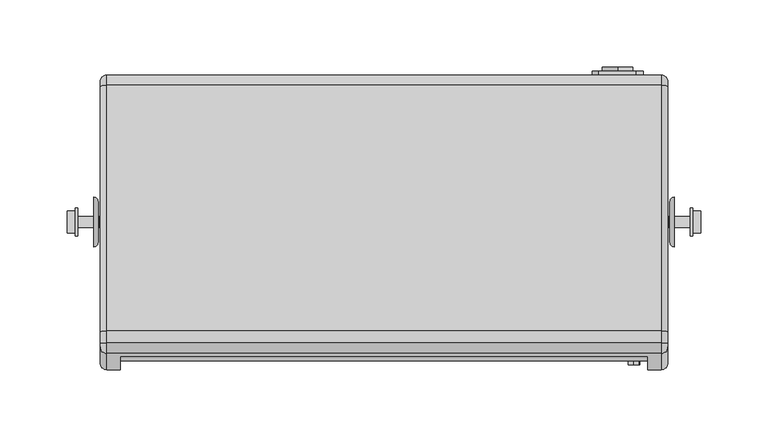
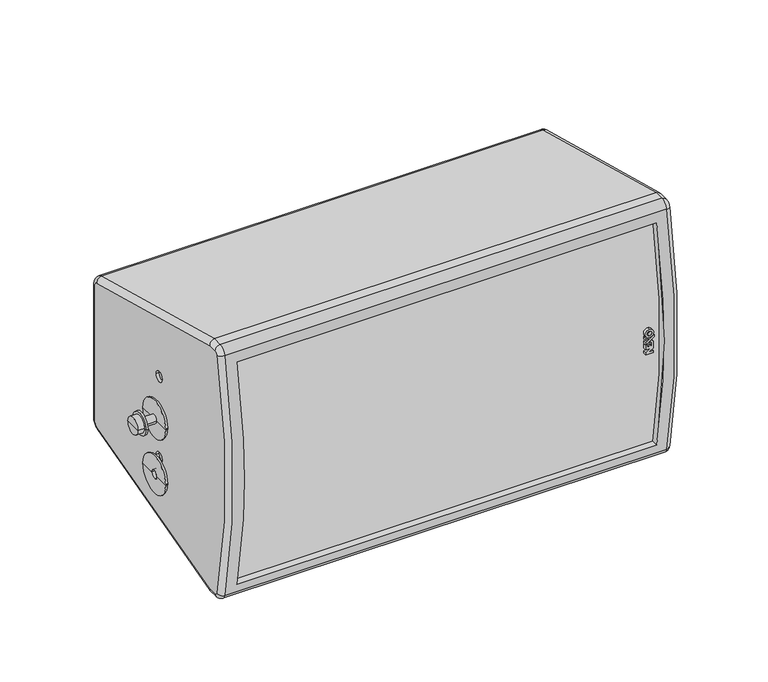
"""IFC4 building model written with IfcOpenShell, lengths in millimetres: proxy geometry, ePS8-HBRK425-SHM : ePS8-HBRK425-SHM."""

from ifc_helpers import new_model, si_unit, point, frame, frame_2d, origin, place, context, project, spatial, polyline, circle_curve, ellipse_curve, trimmed, segment, composite_curve, outline, extrude, source, transform, mapped, element, save
from ifc_brep_helpers import plane_surface, cylinder_surface, revolved_surface, advanced_brep


def generic_models_77f78af2(model_context):
    return source(origin(), model_context, "Body", "SolidModel", [
        extrude(outline(polyline([(180.0649064, 182.0590531), (180.0649064, 189.3388202), (181.9572736, 189.3388202), (181.9572736, 185.1734899), (184.7323706, 189.3388202), (191.5832803, 189.3388202), (192.9018526, 187.463849), (191.8384755, 185.8643156), (190.4689329, 187.7361557), (187.4353036, 187.7361557), (187.4353036, 186.4818684), (189.7184164, 186.4818684), (189.7184164, 184.8791381), (187.4353036, 184.8791381), (187.4353036, 183.6626349), (189.8423782, 183.6626349), (189.8423782, 182.8626349), (189.3087195, 182.0599046), (185.0403435, 182.0599046), (185.0306519, 186.5099607), (182.0913857, 182.0590531), (180.0649064, 182.0590531)])), frame((0.0, -106.5, 0.0), z_axis=(0.0, 1.0, 0.0), x_axis=(0.0, 0.0, 1.0)), (0.0, 0.0, 1.0), 3.0),
        extrude(outline(polyline([(189.9500346, 182.0590531), (195.4286538, 190.3), (197.6218565, 190.3), (192.1432373, 182.0590531), (189.9500346, 182.0590531)])), frame((0.0, -106.5, 0.0), z_axis=(0.0, 1.0, 0.0), x_axis=(0.0, 0.0, 1.0)), (0.0, 0.0, 1.0), 3.0),
        extrude(outline(polyline([(196.6906687, 182.0590531), (194.3638781, 182.0590531), (193.6160838, 183.3270101), (194.7003096, 184.957904), (196.6906687, 182.0590531)])), frame((0.0, -106.5, 0.0), z_axis=(0.0, 1.0, 0.0), x_axis=(0.0, 0.0, 1.0)), (0.0, 0.0, 1.0), 3.0),
        extrude(outline(composite_curve([segment(trimmed(circle_curve(frame_2d((200.0762799, 185.7298911)), 3.9406238), [point((196.135656, 185.7298911))], [point((204.0169037, 185.7298911))], False, "CARTESIAN"), True, "CONTINUOUS"), segment(trimmed(circle_curve(frame_2d((200.0762799, 185.7298911)), 3.9406238), [point((204.0169037, 185.7298911))], [point((196.135656, 185.7298911))], False, "CARTESIAN"), True, "CONTINUOUS")], self_intersect=False), holes=[composite_curve([segment(trimmed(circle_curve(frame_2d((200.0762799, 185.7298911)), 2.0681078), [point((198.0081721, 185.7298911))], [point((202.1443876, 185.7298911))], True, "CARTESIAN"), True, "CONTINUOUS"), segment(trimmed(circle_curve(frame_2d((200.0762799, 185.7298911)), 2.0681078), [point((202.1443876, 185.7298911))], [point((198.0081721, 185.7298911))], True, "CARTESIAN"), True, "CONTINUOUS")], self_intersect=False)]), frame((0.0, -106.5, 0.0), z_axis=(0.0, 1.0, 0.0), x_axis=(0.0, 0.0, 1.0)), (0.0, 0.0, 1.0), 3.0),
        extrude(outline(composite_curve([segment(trimmed(circle_curve(frame_2d((222.0012591, 174.0)), 11.4515227), [point((233.4527818, 174.0))], [point((210.5497365, 174.0))], False, "CARTESIAN"), True, "CONTINUOUS"), segment(trimmed(circle_curve(frame_2d((222.0012591, 174.0)), 11.4515227), [point((210.5497365, 174.0))], [point((233.4527818, 174.0))], False, "CARTESIAN"), True, "CONTINUOUS")], self_intersect=False), holes=[composite_curve([segment(trimmed(circle_curve(frame_2d((222.0012591, 174.0)), 5.0), [point((227.0012591, 174.0))], [point((217.0012591, 174.0))], True, "CARTESIAN"), True, "CONTINUOUS"), segment(trimmed(circle_curve(frame_2d((222.0012591, 174.0)), 5.0), [point((217.0012591, 174.0))], [point((227.0012591, 174.0))], True, "CARTESIAN"), True, "CONTINUOUS")], self_intersect=False)]), frame((0.0, 112.5, 0.0), z_axis=(0.0, 1.0, 0.0), x_axis=(0.0, 0.0, 1.0)), (0.0, 0.0, 1.0), 3.0),
        extrude(outline(composite_curve([segment(trimmed(circle_curve(frame_2d((162.0012591, 174.0)), 11.4515227), [point((173.4527818, 174.0))], [point((150.5497365, 174.0))], False, "CARTESIAN"), True, "CONTINUOUS"), segment(trimmed(circle_curve(frame_2d((162.0012591, 174.0)), 11.4515227), [point((150.5497365, 174.0))], [point((173.4527818, 174.0))], False, "CARTESIAN"), True, "CONTINUOUS")], self_intersect=False), holes=[composite_curve([segment(trimmed(circle_curve(frame_2d((162.0012591, 174.0)), 5.0), [point((167.0012591, 174.0))], [point((157.0012591, 174.0))], True, "CARTESIAN"), True, "CONTINUOUS"), segment(trimmed(circle_curve(frame_2d((162.0012591, 174.0)), 5.0), [point((157.0012591, 174.0))], [point((167.0012591, 174.0))], True, "CARTESIAN"), True, "CONTINUOUS")], self_intersect=False)]), frame((0.0, 112.5, 0.0), z_axis=(0.0, 1.0, 0.0), x_axis=(0.0, 0.0, 1.0)), (0.0, 0.0, 1.0), 3.0),
        extrude(outline(composite_curve([segment(polyline([(245.0012591, 155.0), (139.0012591, 155.0)]), True, "CONTINUOUS"), segment(trimmed(circle_curve(frame_2d((139.0012591, 160.0)), 5.0), [point((139.0012591, 155.0))], [point((134.0012591, 160.0))], False, "CARTESIAN"), True, "CONTINUOUS"), segment(polyline([(134.0012591, 160.0), (134.0012591, 188.0)]), True, "CONTINUOUS"), segment(trimmed(circle_curve(frame_2d((139.0012591, 188.0)), 5.0), [point((134.0012591, 188.0))], [point((139.0012591, 193.0))], False, "CARTESIAN"), True, "CONTINUOUS"), segment(polyline([(139.0012591, 193.0), (245.0012591, 193.0)]), True, "CONTINUOUS"), segment(trimmed(circle_curve(frame_2d((245.0012591, 188.0)), 5.0), [point((245.0012591, 193.0))], [point((250.0012591, 188.0))], False, "CARTESIAN"), True, "CONTINUOUS"), segment(polyline([(250.0012591, 188.0), (250.0012591, 160.0)]), True, "CONTINUOUS"), segment(trimmed(circle_curve(frame_2d((245.0012591, 160.0)), 5.0), [point((250.0012591, 160.0))], [point((245.0012591, 155.0))], False, "CARTESIAN"), True, "CONTINUOUS")], self_intersect=False)), frame((0.0, 109.5, 0.0), z_axis=(0.0, 1.0, 0.0), x_axis=(0.0, 0.0, 1.0)), (0.0, 0.0, 1.0), 3.0),
        advanced_brep(
        [(-211.5, 100.7940952, 120.9332586), (-211.5, -81.822613, 72.0012591), (-211.5, -90.3294755, 72.0012591), (-211.5, -93.2535773, 74.3307156), (-211.5, -93.2535773, 309.6718026), (-211.5, -90.3294755, 312.0012591), (-211.5, -81.822613, 312.0012591), (-211.5, 100.7940952, 263.0692597), (-211.5, 104.5, 258.2396305), (-211.5, 104.5, 125.7628878), (-211.5, -5.0, 192.0012591), (-211.5, 5.0, 192.0012591), (-211.5, -5.0, 152.0012591), (-211.5, 5.0, 152.0012591), (-211.5, -5.0, 232.0012591), (-211.5, 5.0, 232.0012591), (211.5, -81.822613, 72.0012591), (211.5, 100.7940952, 120.9332586), (211.5, 104.5, 125.7628878), (211.5, 104.5, 258.2396305), (211.5, 100.7940952, 263.0692597), (211.5, -81.822613, 312.0012591), (211.5, -90.3294755, 312.0012591), (211.5, -93.2535773, 309.6718026), (211.5, -93.2535773, 74.3307156), (211.5, -90.3294755, 72.0012591), (211.5, 5.0, 192.0012591), (211.5, -5.0, 192.0012591), (211.5, 5.0, 152.0012591), (211.5, -5.0, 152.0012591), (211.5, 5.0, 232.0012591), (211.5, -5.0, 232.0012591), (-206.5, 109.5, 125.7628878), (-206.5, 109.5, 258.2396305), (206.5, 109.5, 258.2396305), (206.5, 109.5, 125.7628878), (-20.0043019, 109.5, 144.6579769), (-20.0043019, 109.5, 133.3446565), (-20.0043019, 109.5, 214.6579769), (-20.0043019, 109.5, 203.3446565), (-90.0043019, 109.5, 214.6579769), (-90.0043019, 109.5, 203.3446565), (-206.5, -98.1270803, 310.7893751), (-206.5, -98.1270803, 73.2131432), (206.4999999, -98.1270803, 73.2131432), (206.5, -98.1270803, 310.7893751), (-196.5, -100.0641688, 82.0012591), (-196.5, -100.0641688, 302.0012591), (196.5, -100.0641688, 302.0012591), (196.5, -100.0641688, 82.0012591), (-206.5, -90.3294755, 317.0012591), (206.5, -90.3294755, 317.0012591), (-206.5, -81.1643505, 317.0012591), (206.5, -81.1643505, 317.0012591), (-206.5, 102.0881905, 267.8988888), (206.5, 102.0881905, 267.8988888), (-206.5, 102.0881905, 116.1036295), (206.5, 102.0881905, 116.1036295), (-206.5, -81.1643505, 67.0012591), (206.5, -81.1643505, 67.0012591), (-206.5, -90.3294755, 67.0012591), (206.5, -90.3294755, 67.0012591), (-208.5, 5.0, 192.0012591), (-208.5, -5.0, 192.0012591), (-208.5, 5.0, 152.0012591), (-208.5, -5.0, 152.0012591), (-208.5, 5.0, 232.0012591), (-208.5, -5.0, 232.0012591), (-196.5, -93.3234349, 82.0012591), (-196.5, -93.2137672, 302.0012591), (196.5, -93.2137672, 302.0012591), (196.5, -93.3234349, 82.0012591), (208.5, 5.0, 192.0012591), (208.5, -5.0, 192.0012591), (208.5, 5.0, 152.0012591), (208.5, -5.0, 152.0012591), (208.5, 5.0, 232.0012591), (208.5, -5.0, 232.0012591), (-20.0043019, 106.5, 144.6579769), (-20.0043019, 106.5, 133.3446565), (-20.0043019, 106.5, 214.6579769), (-20.0043019, 106.5, 203.3446565), (-90.0043019, 106.5, 214.6579769), (-90.0043019, 106.5, 203.3446565)],
        [
            (0, 1),
            (1, 2),
            (2, 3, circle_curve(frame((-211.5, -90.3294755, 75.0012591), z_axis=(-1.0, 0.0, 0.0), x_axis=(0.0, -0.9747006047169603, -0.22351449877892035)), 3.0)),
            (3, 4, circle_curve(frame((-211.5, 419.8833804, 192.0012591), z_axis=(-1.0, 0.0, 0.0), x_axis=(0.0, -0.9747006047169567, 0.22351449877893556)), 526.4559755)),
            (4, 5, circle_curve(frame((-211.5, -90.3294755, 309.0012591), z_axis=(-1.0, 0.0, 0.0), x_axis=(0.0, 0.0, 1.0)), 3.0)),
            (5, 6),
            (6, 7),
            (7, 8, circle_curve(frame((-211.5, 99.5, 258.2396305), z_axis=(-1.0, 0.0, 0.0), x_axis=(0.0, 1.0, 0.0)), 5.0)),
            (8, 9),
            (9, 0, circle_curve(frame((-211.5, 99.5, 125.7628878), z_axis=(-1.0, 0.0, 0.0), x_axis=(0.0, 0.25881904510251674, -0.9659258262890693)), 5.0)),
            (10, 11, circle_curve(frame((-211.5, 0.0, 192.0012591), z_axis=(1.0, 0.0, 0.0), x_axis=(0.0, -1.0, 0.0)), 5.0)),
            (11, 10, circle_curve(frame((-211.5, 0.0, 192.0012591), z_axis=(1.0, 0.0, 0.0), x_axis=(0.0, -1.0, 0.0)), 5.0)),
            (12, 13, circle_curve(frame((-211.5, 0.0, 152.0012591), z_axis=(1.0, 0.0, 0.0), x_axis=(0.0, -1.0, 0.0)), 5.0)),
            (13, 12, circle_curve(frame((-211.5, 0.0, 152.0012591), z_axis=(1.0, 0.0, 0.0), x_axis=(0.0, -1.0, 0.0)), 5.0)),
            (14, 15, circle_curve(frame((-211.5, 0.0, 232.0012591), z_axis=(1.0, 0.0, 0.0), x_axis=(0.0, -1.0, 0.0)), 5.0)),
            (15, 14, circle_curve(frame((-211.5, 0.0, 232.0012591), z_axis=(1.0, 0.0, 0.0), x_axis=(0.0, -1.0, 0.0)), 5.0)),
            (16, 17),
            (17, 18, circle_curve(frame((211.5, 99.5, 125.7628878), z_axis=(1.0, 0.0, 0.0), x_axis=(0.0, 0.2588190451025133, -0.9659258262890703)), 5.0)),
            (18, 19),
            (19, 20, circle_curve(frame((211.5, 99.5, 258.2396305), z_axis=(1.0, 0.0, 0.0), x_axis=(0.0, 1.0, 0.0)), 5.0)),
            (20, 21),
            (21, 22),
            (22, 23, circle_curve(frame((211.5, -90.3294755, 309.0012591), z_axis=(1.0, 0.0, 0.0), x_axis=(0.0, 0.0, 1.0)), 3.0)),
            (23, 24, circle_curve(frame((211.5, 419.8833804, 192.0012591), z_axis=(1.0, 0.0, 0.0), x_axis=(0.0, -0.9747006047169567, 0.22351449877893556)), 526.4559755)),
            (24, 25, circle_curve(frame((211.5, -90.3294755, 75.0012591), z_axis=(1.0, 0.0, 0.0), x_axis=(0.0, -0.9747006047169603, -0.22351449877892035)), 3.0)),
            (25, 16),
            (26, 27, circle_curve(frame((211.5, 0.0, 192.0012591), z_axis=(-1.0, 0.0, 0.0), x_axis=(0.0, -1.0, 0.0)), 5.0)),
            (27, 26, circle_curve(frame((211.5, 0.0, 192.0012591), z_axis=(-1.0, 0.0, 0.0), x_axis=(0.0, -1.0, 0.0)), 5.0)),
            (28, 29, circle_curve(frame((211.5, 0.0, 152.0012591), z_axis=(-1.0, 0.0, 0.0), x_axis=(0.0, -1.0, 0.0)), 5.0)),
            (29, 28, circle_curve(frame((211.5, 0.0, 152.0012591), z_axis=(-1.0, 0.0, 0.0), x_axis=(0.0, -1.0, 0.0)), 5.0)),
            (30, 31, circle_curve(frame((211.5, 0.0, 232.0012591), z_axis=(-1.0, 0.0, 0.0), x_axis=(0.0, -1.0, 0.0)), 5.0)),
            (31, 30, circle_curve(frame((211.5, 0.0, 232.0012591), z_axis=(-1.0, 0.0, 0.0), x_axis=(0.0, -1.0, 0.0)), 5.0)),
            (32, 33),
            (33, 34),
            (34, 35),
            (35, 32),
            (36, 37, circle_curve(frame((-20.0043019, 109.5, 139.0013167), z_axis=(0.0, -1.0, 0.0), x_axis=(0.0, 0.0, -1.0)), 5.6566602)),
            (37, 36, circle_curve(frame((-20.0043019, 109.5, 139.0013167), z_axis=(0.0, -1.0, 0.0), x_axis=(0.0, 0.0, -1.0)), 5.6566602)),
            (38, 39, circle_curve(frame((-20.0043019, 109.5, 209.0013167), z_axis=(0.0, -1.0, 0.0), x_axis=(0.0, 0.0, -1.0)), 5.6566602)),
            (39, 38, circle_curve(frame((-20.0043019, 109.5, 209.0013167), z_axis=(0.0, -1.0, 0.0), x_axis=(0.0, 0.0, -1.0)), 5.6566602)),
            (40, 41, circle_curve(frame((-90.0043019, 109.5, 209.0013167), z_axis=(0.0, -1.0, 0.0), x_axis=(0.0, 0.0, -1.0)), 5.6566602)),
            (41, 40, circle_curve(frame((-90.0043019, 109.5, 209.0013167), z_axis=(0.0, -1.0, 0.0), x_axis=(0.0, 0.0, -1.0)), 5.6566602)),
            (42, 43, circle_curve(frame((-206.5, 419.8833804, 192.0012591), z_axis=(1.0, 0.0, 0.0), x_axis=(0.0, 0.0, 1.0)), 531.4559755)),
            (43, 44),
            (44, 45, circle_curve(frame((206.5, 419.8833804, 192.0012591), z_axis=(-1.0, 0.0, 0.0), x_axis=(0.0, 0.0, 1.0)), 531.4559755)),
            (45, 42),
            (46, 47, circle_curve(frame((-196.5, 419.8833804, 192.0012591), z_axis=(-1.0, 0.0, 0.0), x_axis=(0.0, 0.0, 1.0)), 531.4559755)),
            (47, 48),
            (48, 49, circle_curve(frame((196.5, 419.8833804, 192.0012591), z_axis=(1.0, 0.0, 0.0), x_axis=(0.0, 0.0, 1.0)), 531.4559755)),
            (49, 46),
            (50, 42, circle_curve(frame((-206.5, -90.3294755, 309.0012591), z_axis=(1.0, 0.0, 0.0), x_axis=(0.0, 0.0, 1.0)), 8.0)),
            (45, 51, circle_curve(frame((206.5, -90.3294755, 309.0012591), z_axis=(-1.0, 0.0, 0.0), x_axis=(0.0, 0.0, 1.0)), 8.0)),
            (51, 50),
            (52, 50),
            (51, 53),
            (53, 52),
            (54, 52),
            (53, 55),
            (55, 54),
            (33, 54, circle_curve(frame((-206.5, 99.5, 258.2396305), z_axis=(1.0, 0.0, 0.0), x_axis=(0.0, 0.0, 1.0)), 10.0)),
            (55, 34, circle_curve(frame((206.5, 99.5, 258.2396305), z_axis=(-1.0, 0.0, 0.0), x_axis=(0.0, 0.0, 1.0)), 10.0)),
            (56, 32, circle_curve(frame((-206.5, 99.5, 125.7628878), z_axis=(1.0, 0.0, 0.0), x_axis=(0.0, 0.0, 1.0)), 10.0)),
            (35, 57, circle_curve(frame((206.5, 99.5, 125.7628878), z_axis=(-1.0, 0.0, 0.0), x_axis=(0.0, 0.0, 1.0)), 10.0)),
            (57, 56),
            (58, 56),
            (57, 59),
            (59, 58),
            (60, 58),
            (59, 61),
            (61, 60),
            (43, 60, circle_curve(frame((-206.5, -90.3294755, 75.0012591), z_axis=(1.0, 0.0, 0.0), x_axis=(0.0, 0.0, 1.0)), 8.0)),
            (61, 44, circle_curve(frame((206.5, -90.3294755, 75.0012591), z_axis=(-1.0, 0.0, 0.0), x_axis=(0.0, 0.0, 1.0)), 8.0)),
            (62, 63, circle_curve(frame((-208.5, 0.0, 192.0012591), z_axis=(-1.0, 0.0, 0.0), x_axis=(0.0, -1.0, 0.0)), 5.0)),
            (63, 62, circle_curve(frame((-208.5, 0.0, 192.0012591), z_axis=(-1.0, 0.0, 0.0), x_axis=(0.0, -1.0, 0.0)), 5.0)),
            (64, 65, circle_curve(frame((-208.5, 0.0, 152.0012591), z_axis=(-1.0, 0.0, 0.0), x_axis=(0.0, -1.0, 0.0)), 5.0)),
            (65, 64, circle_curve(frame((-208.5, 0.0, 152.0012591), z_axis=(-1.0, 0.0, 0.0), x_axis=(0.0, -1.0, 0.0)), 5.0)),
            (66, 67, circle_curve(frame((-208.5, 0.0, 232.0012591), z_axis=(-1.0, 0.0, 0.0), x_axis=(0.0, -1.0, 0.0)), 5.0)),
            (67, 66, circle_curve(frame((-208.5, 0.0, 232.0012591), z_axis=(-1.0, 0.0, 0.0), x_axis=(0.0, -1.0, 0.0)), 5.0)),
            (62, 11),
            (10, 63),
            (64, 13),
            (12, 65),
            (66, 15),
            (14, 67),
            (46, 68),
            (68, 69, circle_curve(frame((-196.5, 416.4531533, 191.7471682), z_axis=(-1.0, 0.0, 0.0), x_axis=(0.0, 0.0, 1.0)), 521.4559755)),
            (69, 47),
            (48, 70),
            (70, 71, circle_curve(frame((196.5, 416.4531533, 191.7471682), z_axis=(1.0, 0.0, 0.0), x_axis=(0.0, 0.0, 1.0)), 521.4559755)),
            (71, 49),
            (69, 70),
            (68, 71),
            (0, 56, circle_curve(frame((-206.5, 100.7940952, 120.9332586), z_axis=(0.0, -0.9659258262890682, -0.25881904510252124), x_axis=(0.0, 0.25881904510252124, -0.9659258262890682)), 5.0)),
            (58, 1, ellipse_curve(frame((-206.5, -81.822613, 72.0012591), z_axis=(0.0, 0.9914448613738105, 0.130526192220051), x_axis=(0.0, -0.13052619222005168, 0.9914448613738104)), 5.0431448, 5.0)),
            (9, 32, circle_curve(frame((-206.5, 104.5, 125.7628878), z_axis=(0.0, 0.0, -1.0), x_axis=(0.0, 1.0, 0.0)), 5.0)),
            (8, 33, circle_curve(frame((-206.5, 104.5, 258.2396305), z_axis=(0.0, 0.0, -1.0), x_axis=(0.0, 1.0, 0.0)), 5.0)),
            (7, 54, circle_curve(frame((-206.5, 100.7940952, 263.0692597), z_axis=(0.0, 0.9659258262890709, -0.2588190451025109), x_axis=(0.0, 0.2588190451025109, 0.9659258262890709)), 5.0)),
            (6, 52, ellipse_curve(frame((-206.5, -81.822613, 312.0012591), z_axis=(0.0, 0.9914448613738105, -0.1305261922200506), x_axis=(0.0, 0.1305261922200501, 0.9914448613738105)), 5.0431448, 5.0)),
            (60, 2, circle_curve(frame((-206.5, -90.3294755, 72.0012591), z_axis=(0.0, 1.0, 0.0), x_axis=(0.0, 0.0, -1.0)), 5.0)),
            (5, 50, circle_curve(frame((-206.5, -90.3294755, 312.0012591), z_axis=(0.0, 1.0, 0.0), x_axis=(0.0, 0.0, 1.0)), 5.0)),
            (4, 42, circle_curve(frame((-206.5, -93.2535773, 309.6718026), z_axis=(0.0, 0.22351449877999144, 0.9747006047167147), x_axis=(0.0, -0.9747006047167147, 0.22351449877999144)), 5.0)),
            (3, 43, circle_curve(frame((-206.5, -93.2535773, 74.3307156), z_axis=(0.0, -0.22351449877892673, 0.9747006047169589), x_axis=(0.0, -0.9747006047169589, -0.22351449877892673)), 5.0)),
            (57, 17, circle_curve(frame((206.5, 100.7940952, 120.9332586), z_axis=(0.0, -0.9659258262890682, -0.2588190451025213), x_axis=(0.0, 0.2588190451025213, -0.9659258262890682)), 5.0)),
            (16, 59, ellipse_curve(frame((206.5, -81.822613, 72.0012591), z_axis=(0.0, 0.9914448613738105, 0.13052619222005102), x_axis=(0.0, -0.13052619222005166, 0.9914448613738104)), 5.0431448, 5.0)),
            (35, 18, circle_curve(frame((206.5, 104.5, 125.7628878), z_axis=(0.0, 0.0, -1.0), x_axis=(0.0, 1.0, 0.0)), 5.0)),
            (34, 19, circle_curve(frame((206.5, 104.5, 258.2396305), z_axis=(0.0, 0.0, -1.0), x_axis=(0.0, 1.0, 0.0)), 5.0)),
            (55, 20, circle_curve(frame((206.5, 100.7940952, 263.0692597), z_axis=(0.0, 0.9659258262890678, -0.25881904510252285), x_axis=(0.0, 0.25881904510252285, 0.9659258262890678)), 5.0)),
            (53, 21, ellipse_curve(frame((206.5, -81.822613, 312.0012591), z_axis=(0.0, 0.9914448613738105, -0.13052619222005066), x_axis=(0.0, 0.1305261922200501, 0.9914448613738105)), 5.0431448, 5.0)),
            (25, 61, circle_curve(frame((206.5, -90.3294755, 72.0012591), z_axis=(0.0, 1.0, 0.0), x_axis=(0.0, 0.0, -1.0)), 5.0)),
            (51, 22, circle_curve(frame((206.5, -90.3294755, 312.0012591), z_axis=(0.0, 1.0, 0.0), x_axis=(0.0, 0.0, 1.0)), 5.0)),
            (45, 23, circle_curve(frame((206.5, -93.2535773, 309.6718026), z_axis=(0.0, 0.2235144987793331, 0.9747006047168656), x_axis=(0.0, -0.9747006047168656, 0.2235144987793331)), 5.0)),
            (44, 24, circle_curve(frame((206.5, -93.2535773, 74.3307156), z_axis=(0.0, -0.22351449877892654, 0.9747006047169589), x_axis=(0.0, -0.9747006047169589, -0.22351449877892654)), 5.0)),
            (72, 73, circle_curve(frame((208.5, 0.0, 192.0012591), z_axis=(1.0, 0.0, 0.0), x_axis=(0.0, -1.0, 0.0)), 5.0)),
            (73, 72, circle_curve(frame((208.5, 0.0, 192.0012591), z_axis=(1.0, 0.0, 0.0), x_axis=(0.0, -1.0, 0.0)), 5.0)),
            (74, 75, circle_curve(frame((208.5, 0.0, 152.0012591), z_axis=(1.0, 0.0, 0.0), x_axis=(0.0, -1.0, 0.0)), 5.0)),
            (75, 74, circle_curve(frame((208.5, 0.0, 152.0012591), z_axis=(1.0, 0.0, 0.0), x_axis=(0.0, -1.0, 0.0)), 5.0)),
            (76, 77, circle_curve(frame((208.5, 0.0, 232.0012591), z_axis=(1.0, 0.0, 0.0), x_axis=(0.0, -1.0, 0.0)), 5.0)),
            (77, 76, circle_curve(frame((208.5, 0.0, 232.0012591), z_axis=(1.0, 0.0, 0.0), x_axis=(0.0, -1.0, 0.0)), 5.0)),
            (73, 27),
            (26, 72),
            (75, 29),
            (28, 74),
            (77, 31),
            (30, 76),
            (78, 79, circle_curve(frame((-20.0043019, 106.5, 139.0013167), z_axis=(0.0, 1.0, 0.0), x_axis=(0.0, 0.0, -1.0)), 5.6566602)),
            (79, 78, circle_curve(frame((-20.0043019, 106.5, 139.0013167), z_axis=(0.0, 1.0, 0.0), x_axis=(0.0, 0.0, -1.0)), 5.6566602)),
            (80, 81, circle_curve(frame((-20.0043019, 106.5, 209.0013167), z_axis=(0.0, 1.0, 0.0), x_axis=(0.0, 0.0, -1.0)), 5.6566602)),
            (81, 80, circle_curve(frame((-20.0043019, 106.5, 209.0013167), z_axis=(0.0, 1.0, 0.0), x_axis=(0.0, 0.0, -1.0)), 5.6566602)),
            (82, 83, circle_curve(frame((-90.0043019, 106.5, 209.0013167), z_axis=(0.0, 1.0, 0.0), x_axis=(0.0, 0.0, -1.0)), 5.6566602)),
            (83, 82, circle_curve(frame((-90.0043019, 106.5, 209.0013167), z_axis=(0.0, 1.0, 0.0), x_axis=(0.0, 0.0, -1.0)), 5.6566602)),
            (79, 37),
            (36, 78),
            (81, 39),
            (38, 80),
            (83, 41),
            (40, 82),
        ],
        [
            plane_surface(frame((-211.5, -90.3294755, 317.0012591), z_axis=(-1.0, 0.0, 0.0), x_axis=(0.0, 1.0, 0.0))),
            plane_surface(frame((211.5, -90.3294755, 317.0012591), z_axis=(1.0, 0.0, 0.0), x_axis=(0.0, -1.0, 0.0))),
            plane_surface(frame((-211.5, 109.5, 258.2396305), z_axis=(0.0, 1.0, 0.0), x_axis=(1.0, 0.0, 0.0))),
            cylinder_surface(frame((211.5, 419.8833804, 192.0012591), z_axis=(-1.0, 0.0, 0.0), x_axis=(0.0, 0.0, 1.0)), 531.4559755),
            cylinder_surface(frame((211.5, -90.3294755, 309.0012591), z_axis=(-1.0, 0.0, 0.0), x_axis=(0.0, 0.0, 1.0)), 8.0),
            plane_surface(frame((-211.5, -90.3294755, 317.0012591), z_axis=(0.0, 0.0, 1.0), x_axis=(1.0, 0.0, 0.0))),
            plane_surface(frame((-211.5, -81.1643505, 317.0012591), z_axis=(0.0, 0.2588190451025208, 0.9659258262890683), x_axis=(1.0, 0.0, 0.0))),
            cylinder_surface(frame((211.5, 99.5, 258.2396305), z_axis=(-1.0, 0.0, 0.0), x_axis=(0.0, 0.0, 1.0)), 10.0),
            cylinder_surface(frame((211.5, 99.5, 125.7628878), z_axis=(-1.0, 0.0, 0.0), x_axis=(0.0, 0.0, 1.0)), 10.0),
            plane_surface(frame((-211.5, 102.0881905, 116.1036295), z_axis=(0.0, 0.2588190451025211, -0.9659258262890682), x_axis=(1.0, 0.0, 0.0))),
            plane_surface(frame((-211.5, -81.1643505, 67.0012591), z_axis=(0.0, 0.0, -1.0), x_axis=(1.0, 0.0, 0.0))),
            cylinder_surface(frame((211.5, -90.3294755, 75.0012591), z_axis=(-1.0, 0.0, 0.0), x_axis=(0.0, 0.0, 1.0)), 8.0),
            plane_surface(frame((-208.5, -5.0, 192.0012591), z_axis=(-1.0, 0.0, 0.0), x_axis=(0.0, 0.0, -1.0))),
            revolved_surface(polyline([(-211.5, -5.0, 192.0012591), (-208.5, -5.0, 192.0012591)]), (-208.5, 0.0, 192.0012591), (-1.0, 0.0, 0.0)),
            revolved_surface(polyline([(-211.5, -5.0, 152.0012591), (-208.5, -5.0, 152.0012591)]), (-211.5, 0.0, 152.0012591), (-1.0, 0.0, 0.0)),
            revolved_surface(polyline([(-211.5, -5.0, 232.0012591), (-208.5, -5.0, 232.0012591)]), (-211.5, 0.0, 232.0012591), (-1.0, 0.0, 0.0)),
            plane_surface(frame((-196.5, -157.7599178, 302.0012591), z_axis=(1.0, 0.0, 0.0), x_axis=(0.0, 1.0, 0.0))),
            plane_surface(frame((196.5, -157.7599178, 302.0012591), z_axis=(-1.0, 0.0, 0.0), x_axis=(0.0, -1.0, 0.0))),
            plane_surface(frame((-196.5, -100.0641688, 302.0012591), z_axis=(0.0, 0.0, -1.0), x_axis=(1.0, 0.0, 0.0))),
            cylinder_surface(frame((196.5, 416.4531533, 191.7471682), z_axis=(1.0, 0.0, 0.0), x_axis=(0.0, 0.0, 1.0)), 521.4559755),
            plane_surface(frame((-196.5, -93.3234349, 82.0012591), z_axis=(0.0, 0.0, 1.0), x_axis=(1.0, 0.0, 0.0))),
            cylinder_surface(frame((-206.5, -82.4584457, 71.8308883), z_axis=(0.0, 0.9659258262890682, 0.25881904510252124), x_axis=(0.0, 0.25881904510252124, -0.9659258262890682)), 5.0),
            revolved_surface(trimmed(ellipse_curve(frame((-206.5, 100.7940952, 120.9332586), z_axis=(0.0, -0.9659258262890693, -0.25881904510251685), x_axis=(0.0, 0.25881904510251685, -0.9659258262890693)), 5.0, 5.0), [point((-211.5, 100.7940952, 120.9332586))], [point((-206.5, 102.0881905, 116.1036295))], True, "CARTESIAN"), (-211.5, 99.5, 125.7628878), (1.0, 0.0, 0.0)),
            cylinder_surface(frame((-206.5, 104.5, 125.7628878), z_axis=(0.0, 0.0, 1.0), x_axis=(0.0, 1.0, 0.0)), 5.0),
            revolved_surface(trimmed(ellipse_curve(frame((-206.5, 104.5, 258.2396305), z_axis=(0.0, 0.0, -1.0), x_axis=(0.0, 1.0, 0.0)), 5.0, 5.0), [point((-211.5, 104.5, 258.2396305))], [point((-206.5, 109.5, 258.2396305))], True, "CARTESIAN"), (-211.5, 99.5, 258.2396305), (1.0, 0.0, 0.0)),
            cylinder_surface(frame((-206.5, 100.7940952, 263.0692597), z_axis=(0.0, -0.9659258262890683, 0.25881904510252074), x_axis=(0.0, 0.25881904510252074, 0.9659258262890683)), 5.0),
            cylinder_surface(frame((-206.5, -90.3294755, 72.0012591), z_axis=(0.0, 1.0, 0.0), x_axis=(0.0, 0.0, -1.0)), 5.0),
            cylinder_surface(frame((-206.5, -81.1643505, 312.0012591), z_axis=(0.0, -1.0, 0.0), x_axis=(0.0, 0.0, 1.0)), 5.0),
            revolved_surface(trimmed(ellipse_curve(frame((-206.5, -90.3294755, 312.0012591), z_axis=(0.0, 1.0, 0.0), x_axis=(0.0, 0.0, 1.0)), 5.0, 5.0), [point((-211.5, -90.3294755, 312.0012591))], [point((-206.5, -90.3294755, 317.0012591))], True, "CARTESIAN"), (-211.5, -90.3294755, 309.0012591), (1.0, 0.0, 0.0)),
            revolved_surface(trimmed(ellipse_curve(frame((-206.5, -93.2535773, 309.6718026), z_axis=(0.0, 0.2235144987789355, 0.9747006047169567), x_axis=(0.0, -0.9747006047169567, 0.2235144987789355)), 5.0, 5.0), [point((-211.5, -93.2535773, 309.6718026))], [point((-206.5, -98.1270803, 310.7893751))], True, "CARTESIAN"), (-211.5, 419.8833804, 192.0012591), (1.0, 0.0, 0.0)),
            revolved_surface(trimmed(ellipse_curve(frame((-206.5, -93.2535773, 74.3307156), z_axis=(0.0, -0.22351449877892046, 0.9747006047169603), x_axis=(0.0, -0.9747006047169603, -0.22351449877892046)), 5.0, 5.0), [point((-211.5, -93.2535773, 74.3307156))], [point((-206.5, -98.1270803, 73.2131432))], True, "CARTESIAN"), (-211.5, -90.3294755, 75.0012591), (1.0, 0.0, 0.0)),
            cylinder_surface(frame((206.5, -82.4584457, 71.8308883), z_axis=(0.0, 0.9659258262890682, 0.2588190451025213), x_axis=(0.0, 0.2588190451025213, -0.9659258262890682)), 5.0),
            revolved_surface(trimmed(ellipse_curve(frame((206.5, 100.7940952, 120.9332586), z_axis=(0.0, -0.9659258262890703, -0.25881904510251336), x_axis=(0.0, 0.25881904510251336, -0.9659258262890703)), 5.0, 5.0), [point((206.5, 102.0881905, 116.1036295))], [point((211.5, 100.7940952, 120.9332586))], True, "CARTESIAN"), (211.5, 99.5, 125.7628878), (1.0, 0.0, 0.0)),
            cylinder_surface(frame((206.5, 104.5, 125.7628878), z_axis=(0.0, 0.0, 1.0), x_axis=(0.0, 1.0, 0.0)), 5.0),
            revolved_surface(trimmed(ellipse_curve(frame((206.5, 104.5, 258.2396305), z_axis=(0.0, 0.0, -1.0), x_axis=(0.0, 1.0, 0.0)), 5.0, 5.0), [point((206.5, 109.5, 258.2396305))], [point((211.5, 104.5, 258.2396305))], True, "CARTESIAN"), (211.5, 99.5, 258.2396305), (1.0, 0.0, 0.0)),
            cylinder_surface(frame((206.5, 100.7940952, 263.0692597), z_axis=(0.0, -0.9659258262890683, 0.2588190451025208), x_axis=(0.0, 0.2588190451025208, 0.9659258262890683)), 5.0),
            cylinder_surface(frame((206.5, -90.3294755, 72.0012591), z_axis=(0.0, 1.0, 0.0), x_axis=(0.0, 0.0, -1.0)), 5.0),
            cylinder_surface(frame((206.5, -81.1643505, 312.0012591), z_axis=(0.0, -1.0, 0.0), x_axis=(0.0, 0.0, 1.0)), 5.0),
            revolved_surface(trimmed(ellipse_curve(frame((206.5, -90.3294755, 312.0012591), z_axis=(0.0, 1.0, 0.0), x_axis=(0.0, 0.0, 1.0)), 5.0, 5.0), [point((206.5, -90.3294755, 317.0012591))], [point((211.5, -90.3294755, 312.0012591))], True, "CARTESIAN"), (211.5, -90.3294755, 309.0012591), (1.0, 0.0, 0.0)),
            revolved_surface(trimmed(ellipse_curve(frame((206.5, -93.2535773, 309.6718026), z_axis=(0.0, 0.22351449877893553, 0.9747006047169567), x_axis=(0.0, -0.9747006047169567, 0.22351449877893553)), 5.0, 5.0), [point((206.5, -98.1270803, 310.7893751))], [point((211.5, -93.2535773, 309.6718026))], True, "CARTESIAN"), (211.5, 419.8833804, 192.0012591), (1.0, 0.0, 0.0)),
            revolved_surface(trimmed(ellipse_curve(frame((206.5, -93.2535773, 74.3307156), z_axis=(0.0, -0.22351449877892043, 0.9747006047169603), x_axis=(0.0, -0.9747006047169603, -0.22351449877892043)), 5.0, 5.0), [point((206.5, -98.1270803, 73.2131432))], [point((211.5, -93.2535773, 74.3307156))], True, "CARTESIAN"), (211.5, -90.3294755, 75.0012591), (1.0, 0.0, 0.0)),
            plane_surface(frame((208.5, -5.0, 192.0012591), z_axis=(1.0, 0.0, 0.0), x_axis=(0.0, 0.0, 1.0))),
            revolved_surface(polyline([(208.5, -5.0, 192.0012591), (211.5, -5.0, 192.0012591)]), (214.5, 0.0, 192.0012591), (-1.0, 0.0, 0.0)),
            revolved_surface(polyline([(208.5, -5.0, 152.0012591), (211.5, -5.0, 152.0012591)]), (211.5, 0.0, 152.0012591), (-1.0, 0.0, 0.0)),
            revolved_surface(polyline([(208.5, -5.0, 232.0012591), (211.5, -5.0, 232.0012591)]), (211.5, 0.0, 232.0012591), (-1.0, 0.0, 0.0)),
            plane_surface(frame((-20.0043019, 106.5, 133.3446565), z_axis=(0.0, 1.0, 0.0), x_axis=(1.0, 0.0, 0.0))),
            revolved_surface(polyline([(-20.0043019, 109.5, 133.34465649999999), (-20.0043019, 106.5, 133.34465649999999)]), (-20.0043019, 106.5, 139.0013167), (0.0, 1.0, 0.0)),
            revolved_surface(polyline([(-20.0043019, 109.5, 203.34465649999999), (-20.0043019, 106.5, 203.34465649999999)]), (-20.0043019, 109.5, 209.0013167), (0.0, 1.0, 0.0)),
            revolved_surface(polyline([(-90.0043019, 109.5, 203.34465649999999), (-90.0043019, 106.5, 203.34465649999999)]), (-90.0043019, 109.5, 209.0013167), (0.0, 1.0, 0.0)),
        ],
        [
            (0, [[1, 2, 3, 4, 5, 6, 7, 8, 9, 10], [11, 12], [13, 14], [15, 16]]),
            (1, [[17, 18, 19, 20, 21, 22, 23, 24, 25, 26], [27, 28], [29, 30], [31, 32]]),
            (2, [[33, 34, 35, 36], [37, 38], [39, 40], [41, 42]]),
            (3, [[43, 44, 45, 46], [47, 48, 49, 50]]),
            (4, [[51, -46, 52, 53]]),
            (5, [[54, -53, 55, 56]]),
            (6, [[57, -56, 58, 59]]),
            (7, [[60, -59, 61, -34]]),
            (8, [[62, -36, 63, 64]]),
            (9, [[65, -64, 66, 67]]),
            (10, [[68, -67, 69, 70]]),
            (11, [[71, -70, 72, -44]]),
            (12, [[73, 74]]),
            (12, [[75, 76]]),
            (12, [[77, 78]]),
            (13, [[-73, 79, -11, 80]]),
            (13, [[-74, -80, -12, -79]]),
            (14, [[-75, 81, -13, 82]]),
            (14, [[-76, -82, -14, -81]]),
            (15, [[-77, 83, -15, 84]]),
            (15, [[-78, -84, -16, -83]]),
            (16, [[85, 86, 87, -47]]),
            (17, [[88, 89, 90, -49]]),
            (18, [[-87, 91, -88, -48]]),
            (19, [[-86, 92, -89, -91]]),
            (20, [[-85, -50, -90, -92]]),
            (21, [[93, -65, 94, -1]]),
            (22, [[-93, -10, 95, -62]]),
            (23, [[-95, -9, 96, -33]]),
            (24, [[-96, -8, 97, -60]]),
            (25, [[-97, -7, 98, -57]]),
            (26, [[-94, -68, 99, -2]]),
            (27, [[-98, -6, 100, -54]]),
            (28, [[-100, -5, 101, -51]]),
            (29, [[-101, -4, 102, -43]]),
            (30, [[-99, -71, -102, -3]]),
            (31, [[103, -17, 104, -66]]),
            (32, [[-103, -63, 105, -18]]),
            (33, [[-105, -35, 106, -19]]),
            (34, [[-106, -61, 107, -20]]),
            (35, [[-107, -58, 108, -21]]),
            (36, [[-104, -26, 109, -69]]),
            (37, [[-108, -55, 110, -22]]),
            (38, [[-110, -52, 111, -23]]),
            (39, [[-111, -45, 112, -24]]),
            (40, [[-109, -25, -112, -72]]),
            (41, [[113, 114]]),
            (41, [[115, 116]]),
            (41, [[117, 118]]),
            (42, [[-114, 119, -27, 120]]),
            (42, [[-113, -120, -28, -119]]),
            (43, [[-116, 121, -29, 122]]),
            (43, [[-115, -122, -30, -121]]),
            (44, [[-118, 123, -31, 124]]),
            (44, [[-117, -124, -32, -123]]),
            (45, [[125, 126]]),
            (45, [[127, 128]]),
            (45, [[129, 130]]),
            (46, [[-126, 131, -37, 132]]),
            (46, [[-125, -132, -38, -131]]),
            (47, [[-128, 133, -39, 134]]),
            (47, [[-127, -134, -40, -133]]),
            (48, [[-130, 135, -41, 136]]),
            (48, [[-129, -136, -42, -135]]),
        ],
    ),
        advanced_brep(
        [(216.0, 3.972567, 137.0012591), (216.0, 18.442415, 137.0012591), (216.0, -18.442415, 137.0012591), (216.0, -3.972567, 137.0012591), (213.0, 15.442415, 137.0012591), (213.0, -15.442415, 137.0012591), (213.0, 3.972567, 137.0012591), (213.0, -3.972567, 137.0012591)],
        [
            (0, 1),
            (1, 2, circle_curve(frame((216.0, 0.0, 137.0012591), z_axis=(1.0, 0.0, 0.0), x_axis=(0.0, -1.0, 0.0)), 18.442415)),
            (2, 3),
            (3, 0, circle_curve(frame((216.0, 0.0, 137.0012591), z_axis=(-1.0, 0.0, 0.0), x_axis=(0.0, -1.0, 0.0)), 3.972567)),
            (2, 1, circle_curve(frame((216.0, 0.0, 137.0012591), z_axis=(1.0, 0.0, 0.0), x_axis=(0.0, -1.0, 0.0)), 18.442415)),
            (0, 3, circle_curve(frame((216.0, 0.0, 137.0012591), z_axis=(-1.0, 0.0, 0.0), x_axis=(0.0, -1.0, 0.0)), 3.972567)),
            (1, 4, circle_curve(frame((216.0, 15.442415, 137.0012591), z_axis=(0.0, 0.0, 1.0), x_axis=(-1.0, 0.0, 0.0)), 3.0)),
            (4, 5, circle_curve(frame((213.0, 0.0, 137.0012591), z_axis=(1.0, 0.0, 0.0), x_axis=(0.0, -1.0, 0.0)), 15.442415)),
            (5, 2, circle_curve(frame((216.0, -15.442415, 137.0012591), z_axis=(0.0, 0.0, 1.0), x_axis=(-1.0, 0.0, 0.0)), 3.0)),
            (5, 4, circle_curve(frame((213.0, 0.0, 137.0012591), z_axis=(1.0, 0.0, 0.0), x_axis=(0.0, -1.0, 0.0)), 15.442415)),
            (4, 6),
            (6, 7, circle_curve(frame((213.0, 0.0, 137.0012591), z_axis=(1.0, 0.0, 0.0), x_axis=(0.0, -1.0, 0.0)), 3.972567)),
            (7, 5),
            (7, 6, circle_curve(frame((213.0, 0.0, 137.0012591), z_axis=(1.0, 0.0, 0.0), x_axis=(0.0, -1.0, 0.0)), 3.972567)),
            (6, 0),
            (3, 7),
        ],
        [
            plane_surface(frame((216.0, 0.0, 137.0012591), z_axis=(1.0, 0.0, 0.0), x_axis=(0.0, -1.0, 0.0))),
            revolved_surface(trimmed(ellipse_curve(frame((216.0, -15.442415, 137.0012591), z_axis=(0.0, 0.0, 1.0), x_axis=(-1.0, 0.0, 0.0)), 3.0, 3.0), [point((213.0, -15.442415, 137.0012591))], [point((216.0, -18.442415, 137.0012591))], True, "CARTESIAN"), (203.2578639, 0.0, 137.0012591), (1.0, 0.0, 0.0)),
            plane_surface(frame((213.0, 0.0, 137.0012591), z_axis=(-1.0, 0.0, 0.0), x_axis=(0.0, -1.0, 0.0))),
            revolved_surface(polyline([(216.0, -3.972567, 137.0012591), (213.0, -3.972567, 137.0012591)]), (203.2578639, 0.0, 137.0012591), (1.0, 0.0, 0.0)),
        ],
        [
            (0, [[1, 2, 3, 4]]),
            (0, [[-3, 5, -1, 6]]),
            (1, [[7, 8, 9, -2]]),
            (1, [[-9, 10, -7, -5]]),
            (2, [[11, 12, 13, -8]]),
            (2, [[-13, 14, -11, -10]]),
            (3, [[15, -4, 16, -12]]),
            (3, [[-16, -6, -15, -14]]),
        ],
    ),
        advanced_brep(
        [(-216.0, 18.442415, 137.0012591), (-216.0, 3.972567, 137.0012591), (-216.0, -3.972567, 137.0012591), (-216.0, -18.442415, 137.0012591), (-213.0, 15.442415, 137.0012591), (-213.0, -15.442415, 137.0012591), (-213.0, 3.972567, 137.0012591), (-213.0, -3.972567, 137.0012591)],
        [
            (0, 1),
            (1, 2, circle_curve(frame((-216.0, 0.0, 137.0012591), z_axis=(1.0, 0.0, 0.0), x_axis=(0.0, -1.0, 0.0)), 3.972567)),
            (2, 3),
            (3, 0, circle_curve(frame((-216.0, 0.0, 137.0012591), z_axis=(-1.0, 0.0, 0.0), x_axis=(0.0, -1.0, 0.0)), 18.442415)),
            (2, 1, circle_curve(frame((-216.0, 0.0, 137.0012591), z_axis=(1.0, 0.0, 0.0), x_axis=(0.0, -1.0, 0.0)), 3.972567)),
            (0, 3, circle_curve(frame((-216.0, 0.0, 137.0012591), z_axis=(-1.0, 0.0, 0.0), x_axis=(0.0, -1.0, 0.0)), 18.442415)),
            (4, 0, circle_curve(frame((-216.0, 15.442415, 137.0012591), z_axis=(0.0, 0.0, 1.0), x_axis=(1.0, 0.0, 0.0)), 3.0)),
            (3, 5, circle_curve(frame((-216.0, -15.442415, 137.0012591), z_axis=(0.0, 0.0, 1.0), x_axis=(1.0, 0.0, 0.0)), 3.0)),
            (5, 4, circle_curve(frame((-213.0, 0.0, 137.0012591), z_axis=(-1.0, 0.0, 0.0), x_axis=(0.0, -1.0, 0.0)), 15.442415)),
            (4, 5, circle_curve(frame((-213.0, 0.0, 137.0012591), z_axis=(-1.0, 0.0, 0.0), x_axis=(0.0, -1.0, 0.0)), 15.442415)),
            (6, 4),
            (5, 7),
            (7, 6, circle_curve(frame((-213.0, 0.0, 137.0012591), z_axis=(-1.0, 0.0, 0.0), x_axis=(0.0, -1.0, 0.0)), 3.972567)),
            (6, 7, circle_curve(frame((-213.0, 0.0, 137.0012591), z_axis=(-1.0, 0.0, 0.0), x_axis=(0.0, -1.0, 0.0)), 3.972567)),
            (1, 6),
            (7, 2),
        ],
        [
            plane_surface(frame((-216.0, 0.0, 137.0012591), z_axis=(-1.0, 0.0, 0.0), x_axis=(0.0, -1.0, 0.0))),
            revolved_surface(trimmed(ellipse_curve(frame((-216.0, -15.442415, 137.0012591), z_axis=(0.0, 0.0, 1.0), x_axis=(1.0, 0.0, 0.0)), 3.0, 3.0), [point((-216.0, -18.442415, 137.0012591))], [point((-213.0, -15.442415, 137.0012591))], True, "CARTESIAN"), (-203.2578639, 0.0, 137.0012591), (1.0, 0.0, 0.0)),
            plane_surface(frame((-213.0, 0.0, 137.0012591), z_axis=(1.0, 0.0, 0.0), x_axis=(0.0, -1.0, 0.0))),
            revolved_surface(polyline([(-213.0, -3.972567, 137.0012591), (-216.0, -3.972567, 137.0012591)]), (-203.2578639, 0.0, 137.0012591), (1.0, 0.0, 0.0)),
        ],
        [
            (0, [[1, 2, 3, 4]]),
            (0, [[-3, 5, -1, 6]]),
            (1, [[7, -4, 8, 9]]),
            (1, [[-8, -6, -7, 10]]),
            (2, [[11, -9, 12, 13]]),
            (2, [[-12, -10, -11, 14]]),
            (3, [[15, -13, 16, -2]]),
            (3, [[-16, -14, -15, -5]]),
        ],
    ),
        advanced_brep(
        [(216.0, 4.0553577, 192.0012591), (216.0, 18.442415, 192.0012591), (216.0, -18.442415, 192.0012591), (216.0, -4.0553577, 192.0012591), (213.0, 15.442415, 192.0012591), (213.0, -15.442415, 192.0012591), (213.0, 4.0553577, 192.0012591), (213.0, -4.0553577, 192.0012591), (212.0, 4.0553577, 192.0012591), (212.0, -4.0553577, 192.0012591), (212.0, 0.0, 192.0012591), (236.0, 0.0, 192.0012591), (236.0, 8.0750303, 192.0012591), (236.0, -8.0750303, 192.0012591), (230.0, 8.0750303, 192.0012591), (230.0, -8.0750303, 192.0012591), (230.0, 10.555922, 192.0012591), (230.0, -10.555922, 192.0012591), (228.0, 10.555922, 192.0012591), (228.0, -10.555922, 192.0012591), (228.0, 4.0553577, 192.0012591), (228.0, -4.0553577, 192.0012591)],
        [
            (0, 1),
            (1, 2, circle_curve(frame((216.0, 0.0, 192.0012591), z_axis=(1.0, 0.0, 0.0), x_axis=(0.0, -1.0, 0.0)), 18.442415)),
            (2, 3),
            (3, 0, circle_curve(frame((216.0, 0.0, 192.0012591), z_axis=(-1.0, 0.0, 0.0), x_axis=(0.0, -1.0, 0.0)), 4.0553577)),
            (2, 1, circle_curve(frame((216.0, 0.0, 192.0012591), z_axis=(1.0, 0.0, 0.0), x_axis=(0.0, -1.0, 0.0)), 18.442415)),
            (0, 3, circle_curve(frame((216.0, 0.0, 192.0012591), z_axis=(-1.0, 0.0, 0.0), x_axis=(0.0, -1.0, 0.0)), 4.0553577)),
            (1, 4, circle_curve(frame((216.0, 15.442415, 192.0012591), z_axis=(0.0, 0.0, 1.0), x_axis=(-1.0, 0.0, 0.0)), 3.0)),
            (4, 5, circle_curve(frame((213.0, 0.0, 192.0012591), z_axis=(1.0, 0.0, 0.0), x_axis=(0.0, -1.0, 0.0)), 15.442415)),
            (5, 2, circle_curve(frame((216.0, -15.442415, 192.0012591), z_axis=(0.0, 0.0, 1.0), x_axis=(-1.0, 0.0, 0.0)), 3.0)),
            (5, 4, circle_curve(frame((213.0, 0.0, 192.0012591), z_axis=(1.0, 0.0, 0.0), x_axis=(0.0, -1.0, 0.0)), 15.442415)),
            (4, 6),
            (6, 7, circle_curve(frame((213.0, 0.0, 192.0012591), z_axis=(1.0, 0.0, 0.0), x_axis=(0.0, -1.0, 0.0)), 4.0553577)),
            (7, 5),
            (7, 6, circle_curve(frame((213.0, 0.0, 192.0012591), z_axis=(1.0, 0.0, 0.0), x_axis=(0.0, -1.0, 0.0)), 4.0553577)),
            (6, 8),
            (8, 9, circle_curve(frame((212.0, 0.0, 192.0012591), z_axis=(1.0, 0.0, 0.0), x_axis=(0.0, -1.0, 0.0)), 4.0553577)),
            (9, 7),
            (9, 8, circle_curve(frame((212.0, 0.0, 192.0012591), z_axis=(1.0, 0.0, 0.0), x_axis=(0.0, -1.0, 0.0)), 4.0553577)),
            (8, 10),
            (10, 9),
            (11, 12),
            (12, 13, circle_curve(frame((236.0, 0.0, 192.0012591), z_axis=(1.0, 0.0, 0.0), x_axis=(0.0, -1.0, 0.0)), 8.0750303)),
            (13, 11),
            (13, 12, circle_curve(frame((236.0, 0.0, 192.0012591), z_axis=(1.0, 0.0, 0.0), x_axis=(0.0, -1.0, 0.0)), 8.0750303)),
            (12, 14),
            (14, 15, circle_curve(frame((230.0, 0.0, 192.0012591), z_axis=(1.0, 0.0, 0.0), x_axis=(0.0, -1.0, 0.0)), 8.0750303)),
            (15, 13),
            (15, 14, circle_curve(frame((230.0, 0.0, 192.0012591), z_axis=(1.0, 0.0, 0.0), x_axis=(0.0, -1.0, 0.0)), 8.0750303)),
            (14, 16),
            (16, 17, circle_curve(frame((230.0, 0.0, 192.0012591), z_axis=(1.0, 0.0, 0.0), x_axis=(0.0, -1.0, 0.0)), 10.555922)),
            (17, 15),
            (17, 16, circle_curve(frame((230.0, 0.0, 192.0012591), z_axis=(1.0, 0.0, 0.0), x_axis=(0.0, -1.0, 0.0)), 10.555922)),
            (16, 18),
            (18, 19, circle_curve(frame((228.0, 0.0, 192.0012591), z_axis=(1.0, 0.0, 0.0), x_axis=(0.0, -1.0, 0.0)), 10.555922)),
            (19, 17),
            (19, 18, circle_curve(frame((228.0, 0.0, 192.0012591), z_axis=(1.0, 0.0, 0.0), x_axis=(0.0, -1.0, 0.0)), 10.555922)),
            (18, 20),
            (20, 21, circle_curve(frame((228.0, 0.0, 192.0012591), z_axis=(1.0, 0.0, 0.0), x_axis=(0.0, -1.0, 0.0)), 4.0553577)),
            (21, 19),
            (21, 20, circle_curve(frame((228.0, 0.0, 192.0012591), z_axis=(1.0, 0.0, 0.0), x_axis=(0.0, -1.0, 0.0)), 4.0553577)),
            (20, 0),
            (3, 21),
        ],
        [
            plane_surface(frame((216.0, 0.0, 192.0012591), z_axis=(1.0, 0.0, 0.0), x_axis=(0.0, -1.0, 0.0))),
            revolved_surface(trimmed(ellipse_curve(frame((216.0, -15.442415, 192.0012591), z_axis=(0.0, 0.0, 1.0), x_axis=(-1.0, 0.0, 0.0)), 3.0, 3.0), [point((213.0, -15.442415, 192.0012591))], [point((216.0, -18.442415, 192.0012591))], True, "CARTESIAN"), (203.2578639, 0.0, 192.0012591), (1.0, 0.0, 0.0)),
            plane_surface(frame((213.0, 0.0, 192.0012591), z_axis=(-1.0, 0.0, 0.0), x_axis=(0.0, -1.0, 0.0))),
            cylinder_surface(frame((203.2578639, 0.0, 192.0012591), z_axis=(1.0, 0.0, 0.0), x_axis=(0.0, -1.0, 0.0)), 4.0553577),
            plane_surface(frame((212.0, 0.0, 192.0012591), z_axis=(-1.0, 0.0, 0.0), x_axis=(0.0, -1.0, 0.0))),
            plane_surface(frame((236.0, 0.0, 192.0012591), z_axis=(1.0, 0.0, 0.0), x_axis=(0.0, -1.0, 0.0))),
            cylinder_surface(frame((203.2578639, 0.0, 192.0012591), z_axis=(1.0, 0.0, 0.0), x_axis=(0.0, -1.0, 0.0)), 8.0750303),
            plane_surface(frame((230.0, 0.0, 192.0012591), z_axis=(1.0, 0.0, 0.0), x_axis=(0.0, -1.0, 0.0))),
            cylinder_surface(frame((203.2578639, 0.0, 192.0012591), z_axis=(1.0, 0.0, 0.0), x_axis=(0.0, -1.0, 0.0)), 10.555922),
            plane_surface(frame((228.0, 0.0, 192.0012591), z_axis=(-1.0, 0.0, 0.0), x_axis=(0.0, -1.0, 0.0))),
        ],
        [
            (0, [[1, 2, 3, 4]]),
            (0, [[-3, 5, -1, 6]]),
            (1, [[7, 8, 9, -2]]),
            (1, [[-9, 10, -7, -5]]),
            (2, [[11, 12, 13, -8]]),
            (2, [[-13, 14, -11, -10]]),
            (3, [[15, 16, 17, -12]]),
            (3, [[-17, 18, -15, -14]]),
            (4, [[19, 20, -16]]),
            (4, [[-20, -19, -18]]),
            (5, [[21, 22, 23]]),
            (5, [[-23, 24, -21]]),
            (6, [[25, 26, 27, -22]]),
            (6, [[-27, 28, -25, -24]]),
            (7, [[29, 30, 31, -26]]),
            (7, [[-31, 32, -29, -28]]),
            (8, [[33, 34, 35, -30]]),
            (8, [[-35, 36, -33, -32]]),
            (9, [[37, 38, 39, -34]]),
            (9, [[-39, 40, -37, -36]]),
            (3, [[41, -4, 42, -38]]),
            (3, [[-42, -6, -41, -40]]),
        ],
    ),
        advanced_brep(
        [(-216.0, 18.442415, 192.0012591), (-216.0, 4.0553577, 192.0012591), (-216.0, -4.0553577, 192.0012591), (-216.0, -18.442415, 192.0012591), (-213.0, 15.442415, 192.0012591), (-213.0, -15.442415, 192.0012591), (-213.0, 4.0553577, 192.0012591), (-213.0, -4.0553577, 192.0012591), (-212.0, 4.0553577, 192.0012591), (-212.0, -4.0553577, 192.0012591), (-212.0, 0.0, 192.0012591), (-236.0, 8.0750303, 192.0012591), (-236.0, 0.0, 192.0012591), (-236.0, -8.0750303, 192.0012591), (-230.0, 8.0750303, 192.0012591), (-230.0, -8.0750303, 192.0012591), (-230.0, 10.555922, 192.0012591), (-230.0, -10.555922, 192.0012591), (-228.0, 10.555922, 192.0012591), (-228.0, -10.555922, 192.0012591), (-228.0, 4.0553577, 192.0012591), (-228.0, -4.0553577, 192.0012591)],
        [
            (0, 1),
            (1, 2, circle_curve(frame((-216.0, 0.0, 192.0012591), z_axis=(1.0, 0.0, 0.0), x_axis=(0.0, -1.0, 0.0)), 4.0553577)),
            (2, 3),
            (3, 0, circle_curve(frame((-216.0, 0.0, 192.0012591), z_axis=(-1.0, 0.0, 0.0), x_axis=(0.0, -1.0, 0.0)), 18.442415)),
            (2, 1, circle_curve(frame((-216.0, 0.0, 192.0012591), z_axis=(1.0, 0.0, 0.0), x_axis=(0.0, -1.0, 0.0)), 4.0553577)),
            (0, 3, circle_curve(frame((-216.0, 0.0, 192.0012591), z_axis=(-1.0, 0.0, 0.0), x_axis=(0.0, -1.0, 0.0)), 18.442415)),
            (4, 0, circle_curve(frame((-216.0, 15.442415, 192.0012591), z_axis=(0.0, 0.0, 1.0), x_axis=(1.0, 0.0, 0.0)), 3.0)),
            (3, 5, circle_curve(frame((-216.0, -15.442415, 192.0012591), z_axis=(0.0, 0.0, 1.0), x_axis=(1.0, 0.0, 0.0)), 3.0)),
            (5, 4, circle_curve(frame((-213.0, 0.0, 192.0012591), z_axis=(-1.0, 0.0, 0.0), x_axis=(0.0, -1.0, 0.0)), 15.442415)),
            (4, 5, circle_curve(frame((-213.0, 0.0, 192.0012591), z_axis=(-1.0, 0.0, 0.0), x_axis=(0.0, -1.0, 0.0)), 15.442415)),
            (6, 4),
            (5, 7),
            (7, 6, circle_curve(frame((-213.0, 0.0, 192.0012591), z_axis=(-1.0, 0.0, 0.0), x_axis=(0.0, -1.0, 0.0)), 4.0553577)),
            (6, 7, circle_curve(frame((-213.0, 0.0, 192.0012591), z_axis=(-1.0, 0.0, 0.0), x_axis=(0.0, -1.0, 0.0)), 4.0553577)),
            (8, 6),
            (7, 9),
            (9, 8, circle_curve(frame((-212.0, 0.0, 192.0012591), z_axis=(-1.0, 0.0, 0.0), x_axis=(0.0, -1.0, 0.0)), 4.0553577)),
            (8, 9, circle_curve(frame((-212.0, 0.0, 192.0012591), z_axis=(-1.0, 0.0, 0.0), x_axis=(0.0, -1.0, 0.0)), 4.0553577)),
            (10, 8),
            (9, 10),
            (11, 12),
            (12, 13),
            (13, 11, circle_curve(frame((-236.0, 0.0, 192.0012591), z_axis=(-1.0, 0.0, 0.0), x_axis=(0.0, -1.0, 0.0)), 8.0750303)),
            (11, 13, circle_curve(frame((-236.0, 0.0, 192.0012591), z_axis=(-1.0, 0.0, 0.0), x_axis=(0.0, -1.0, 0.0)), 8.0750303)),
            (14, 11),
            (13, 15),
            (15, 14, circle_curve(frame((-230.0, 0.0, 192.0012591), z_axis=(-1.0, 0.0, 0.0), x_axis=(0.0, -1.0, 0.0)), 8.0750303)),
            (14, 15, circle_curve(frame((-230.0, 0.0, 192.0012591), z_axis=(-1.0, 0.0, 0.0), x_axis=(0.0, -1.0, 0.0)), 8.0750303)),
            (16, 14),
            (15, 17),
            (17, 16, circle_curve(frame((-230.0, 0.0, 192.0012591), z_axis=(-1.0, 0.0, 0.0), x_axis=(0.0, -1.0, 0.0)), 10.555922)),
            (16, 17, circle_curve(frame((-230.0, 0.0, 192.0012591), z_axis=(-1.0, 0.0, 0.0), x_axis=(0.0, -1.0, 0.0)), 10.555922)),
            (18, 16),
            (17, 19),
            (19, 18, circle_curve(frame((-228.0, 0.0, 192.0012591), z_axis=(-1.0, 0.0, 0.0), x_axis=(0.0, -1.0, 0.0)), 10.555922)),
            (18, 19, circle_curve(frame((-228.0, 0.0, 192.0012591), z_axis=(-1.0, 0.0, 0.0), x_axis=(0.0, -1.0, 0.0)), 10.555922)),
            (20, 18),
            (19, 21),
            (21, 20, circle_curve(frame((-228.0, 0.0, 192.0012591), z_axis=(-1.0, 0.0, 0.0), x_axis=(0.0, -1.0, 0.0)), 4.0553577)),
            (20, 21, circle_curve(frame((-228.0, 0.0, 192.0012591), z_axis=(-1.0, 0.0, 0.0), x_axis=(0.0, -1.0, 0.0)), 4.0553577)),
            (1, 20),
            (21, 2),
        ],
        [
            plane_surface(frame((-216.0, 0.0, 192.0012591), z_axis=(-1.0, 0.0, 0.0), x_axis=(0.0, -1.0, 0.0))),
            revolved_surface(trimmed(ellipse_curve(frame((-216.0, -15.442415, 192.0012591), z_axis=(0.0, 0.0, 1.0), x_axis=(1.0, 0.0, 0.0)), 3.0, 3.0), [point((-216.0, -18.442415, 192.0012591))], [point((-213.0, -15.442415, 192.0012591))], True, "CARTESIAN"), (-203.2578639, 0.0, 192.0012591), (1.0, 0.0, 0.0)),
            plane_surface(frame((-213.0, 0.0, 192.0012591), z_axis=(1.0, 0.0, 0.0), x_axis=(0.0, -1.0, 0.0))),
            cylinder_surface(frame((-203.2578639, 0.0, 192.0012591), z_axis=(1.0, 0.0, 0.0), x_axis=(0.0, -1.0, 0.0)), 4.0553577),
            plane_surface(frame((-212.0, 0.0, 192.0012591), z_axis=(1.0, 0.0, 0.0), x_axis=(0.0, -1.0, 0.0))),
            plane_surface(frame((-236.0, 0.0, 192.0012591), z_axis=(-1.0, 0.0, 0.0), x_axis=(0.0, -1.0, 0.0))),
            cylinder_surface(frame((-203.2578639, 0.0, 192.0012591), z_axis=(1.0, 0.0, 0.0), x_axis=(0.0, -1.0, 0.0)), 8.0750303),
            plane_surface(frame((-230.0, 0.0, 192.0012591), z_axis=(-1.0, 0.0, 0.0), x_axis=(0.0, -1.0, 0.0))),
            cylinder_surface(frame((-203.2578639, 0.0, 192.0012591), z_axis=(1.0, 0.0, 0.0), x_axis=(0.0, -1.0, 0.0)), 10.555922),
            plane_surface(frame((-228.0, 0.0, 192.0012591), z_axis=(1.0, 0.0, 0.0), x_axis=(0.0, -1.0, 0.0))),
        ],
        [
            (0, [[1, 2, 3, 4]]),
            (0, [[-3, 5, -1, 6]]),
            (1, [[7, -4, 8, 9]]),
            (1, [[-8, -6, -7, 10]]),
            (2, [[11, -9, 12, 13]]),
            (2, [[-12, -10, -11, 14]]),
            (3, [[15, -13, 16, 17]]),
            (3, [[-16, -14, -15, 18]]),
            (4, [[19, -17, 20]]),
            (4, [[-20, -18, -19]]),
            (5, [[21, 22, 23]]),
            (5, [[-22, -21, 24]]),
            (6, [[25, -23, 26, 27]]),
            (6, [[-26, -24, -25, 28]]),
            (7, [[29, -27, 30, 31]]),
            (7, [[-30, -28, -29, 32]]),
            (8, [[33, -31, 34, 35]]),
            (8, [[-34, -32, -33, 36]]),
            (9, [[37, -35, 38, 39]]),
            (9, [[-38, -36, -37, 40]]),
            (3, [[41, -39, 42, -2]]),
            (3, [[-42, -40, -41, -5]]),
        ],
    ),
    ])


if __name__ == "__main__":
    model = new_model("IFC4")
    model_context = context("Model", 3, world=origin())
    ifc_project = project(units=[si_unit("LENGTHUNIT", "METRE", prefix="MILLI")], contexts=[model_context])
    site = spatial("IfcSite", under=ifc_project)
    building = spatial("IfcBuilding", under=site)
    placement = place(None, origin())
    generic_models_shape = generic_models_77f78af2(model_context)
    element("IfcBuildingElementProxy", 1, Name="ePS8-HBRK425-SHM : ePS8-HBRK425-SHM", ObjectType="ePS8-HBRK425-SHM : ePS8-HBRK425-SHM", at=placement, inside=building, context=model_context, shape_type="MappedRepresentation", body=[
        mapped(generic_models_shape, transform((0.0, 0.0, 0.0), x_axis=(1.0, 0.0, 0.0), y_axis=(0.0, 1.0, 0.0), z_axis=(0.0, 0.0, 1.0))),
    ])
    save(model, "model.ifc")
